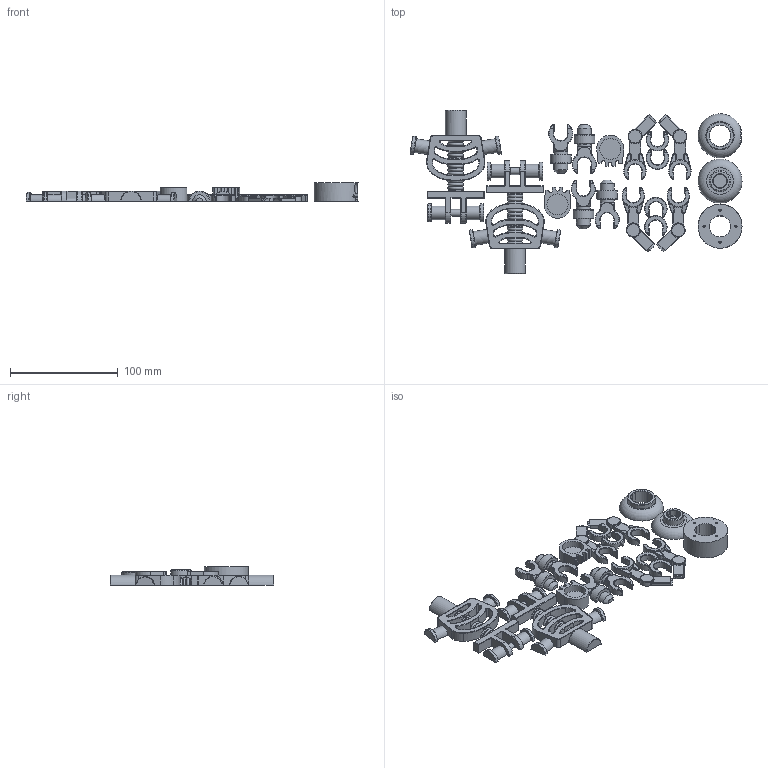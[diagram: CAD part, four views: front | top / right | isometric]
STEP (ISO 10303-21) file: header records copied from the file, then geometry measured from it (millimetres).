
FILE_DESCRIPTION(/* description */ (''),/* implementation_level */ '2;1');
FILE_NAME(/* name */ 'LEGO_Skeleton_Body v1.step',/* time_stamp */ '2023-09-12T20:13:07-07:00',/* author */ (''),/* organization */ (''),/* preprocessor_version */ 'ST-DEVELOPER v19.2',/* originating_system */ 'Autodesk Translation Framework v12.6.0.85',/* authorisation */ '');
FILE_SCHEMA (('AUTOMOTIVE_DESIGN { 1 0 10303 214 3 1 1 }'));
Products named in the file (17): LEGO_Skeleton_Body; assembled arm v4; hand; arm; arm(Mirror); assembled arm v4 (1); hand (1); arm (1); arm(Mirror) (1); assembled leg v5; leg; assembled leg v5 (1); leg (1); assembled torso v5; Torso; assembled skull v5; skull
Assembly tree (16 placements, depth 3):
  LEGO_Skeleton_Body
    assembled arm v4
      hand
      arm
      arm(Mirror)
    assembled arm v4 (1)
      hand (1)
      arm (1)
      arm(Mirror) (1)
    assembled leg v5
      leg
    assembled leg v5 (1)
      leg (1)
    assembled torso v5
      Torso
    assembled skull v5
      skull
Bounding box: 307.99 x 151.44 x 17.61 mm (x, y, z)
Volume: 127225.1 mm3; surface area: 69463.5 mm2
Topology: 19 solids, 19 shells, 1746 faces, 4266 edges, 2588 vertices
Faces by surface type: cylinder 679, plane 441, torus 306, bspline 258, sphere 56, cone 6
Full cylindrical faces by diameter (mm): 2 x98, 12.8 x5, 12.96 x2, 19.2 x1, 19.56 x2, 25.6 x1, 40.8 x1
Entity records: 76670 total; most frequent: CARTESIAN_POINT 36090, DIRECTION 8669, ORIENTED_EDGE 8392, EDGE_CURVE 4196, AXIS2_PLACEMENT_3D 3609, VERTEX_POINT 2588, CIRCLE 1938, EDGE_LOOP 1878
